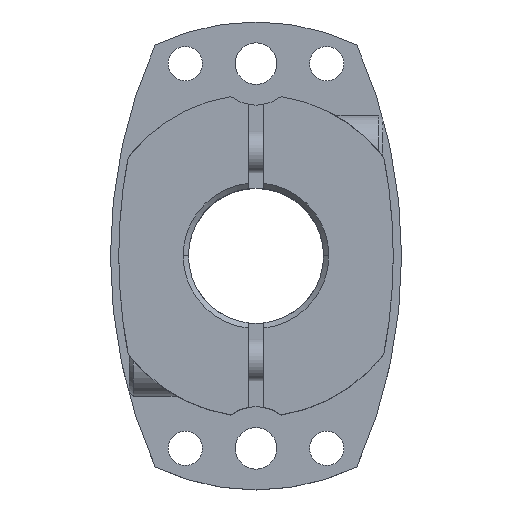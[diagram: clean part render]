
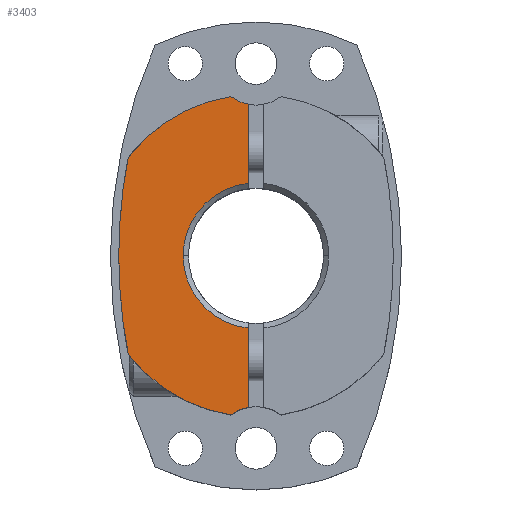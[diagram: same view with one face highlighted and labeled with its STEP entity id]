
A CAD part, top view. The second image highlights one B-rep face of the part: STEP entity #3403.
In plain terms, the highlighted planar face has unit normal (0, 0, 1).
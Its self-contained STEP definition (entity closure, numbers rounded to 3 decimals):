
#412=CARTESIAN_POINT('',(-7.,0.,14.5));
#413=VERTEX_POINT('',#412);
#421=CARTESIAN_POINT('',(-0.75,6.96,14.5));
#422=VERTEX_POINT('',#421);
#436=CARTESIAN_POINT('',(0.,0.0,14.5));
#437=DIRECTION('',(0.0,0.0,1.0));
#438=DIRECTION('',(-1.0,0.0,0.0));
#439=AXIS2_PLACEMENT_3D('',#436,#437,#438);
#440=CIRCLE('',#439,7.0);
#441=EDGE_CURVE('',#422,#413,#440,.T.);
#451=CARTESIAN_POINT('',(-13.2,0.,14.5));
#452=VERTEX_POINT('',#451);
#461=CARTESIAN_POINT('',(-12.283,9.454,14.5));
#462=VERTEX_POINT('',#461);
#463=CARTESIAN_POINT('',(36.,0.,14.5));
#464=DIRECTION('',(0.0,0.0,-1.0));
#465=DIRECTION('',(1.0,0.0,0.0));
#466=AXIS2_PLACEMENT_3D('',#463,#464,#465);
#467=CIRCLE('',#466,49.2);
#468=EDGE_CURVE('',#452,#462,#467,.T.);
#1918=CARTESIAN_POINT('',(-2.414,-15.311,14.5));
#1919=VERTEX_POINT('',#1918);
#1926=CARTESIAN_POINT('',(-12.283,-9.454,14.5));
#1927=VERTEX_POINT('',#1926);
#1928=CARTESIAN_POINT('',(0.,0.,14.5));
#1929=DIRECTION('',(0.0,0.0,-1.0));
#1930=DIRECTION('',(1.0,0.0,0.0));
#1931=AXIS2_PLACEMENT_3D('',#1928,#1929,#1930);
#1932=CIRCLE('',#1931,15.5);
#1933=EDGE_CURVE('',#1919,#1927,#1932,.T.);
#2614=CARTESIAN_POINT('',(36.,0.,14.5));
#2615=DIRECTION('',(0.0,0.0,-1.0));
#2616=DIRECTION('',(1.0,0.0,0.0));
#2617=AXIS2_PLACEMENT_3D('',#2614,#2615,#2616);
#2618=CIRCLE('',#2617,49.2);
#2619=EDGE_CURVE('',#1927,#452,#2618,.T.);
#2629=CARTESIAN_POINT('',(-0.75,-14.571,14.5));
#2630=VERTEX_POINT('',#2629);
#2639=CARTESIAN_POINT('',(0.,-18.5,14.5));
#2640=DIRECTION('',(0.0,0.0,-1.0));
#2641=DIRECTION('',(1.0,0.0,0.0));
#2642=AXIS2_PLACEMENT_3D('',#2639,#2640,#2641);
#2643=CIRCLE('',#2642,4.0);
#2644=EDGE_CURVE('',#1919,#2630,#2643,.T.);
#2823=CARTESIAN_POINT('',(-0.75,14.571,14.5));
#2824=VERTEX_POINT('',#2823);
#2840=CARTESIAN_POINT('',(-2.414,15.311,14.5));
#2841=VERTEX_POINT('',#2840);
#2848=CARTESIAN_POINT('',(0.,18.5,14.5));
#2849=DIRECTION('',(0.0,0.0,-1.0));
#2850=DIRECTION('',(1.0,0.0,0.0));
#2851=AXIS2_PLACEMENT_3D('',#2848,#2849,#2850);
#2852=CIRCLE('',#2851,4.0);
#2853=EDGE_CURVE('',#2824,#2841,#2852,.T.);
#2967=CARTESIAN_POINT('',(-0.75,-6.96,14.5));
#2968=VERTEX_POINT('',#2967);
#2982=CARTESIAN_POINT('',(-0.75,-14.571,14.5));
#2983=DIRECTION('',(0.0,1.0,0.0));
#2984=VECTOR('',#2983,7.611);
#2985=LINE('',#2982,#2984);
#2986=EDGE_CURVE('',#2630,#2968,#2985,.T.);
#3029=CARTESIAN_POINT('',(-0.75,6.96,14.5));
#3030=DIRECTION('',(0.0,1.0,0.0));
#3031=VECTOR('',#3030,7.611);
#3032=LINE('',#3029,#3031);
#3033=EDGE_CURVE('',#422,#2824,#3032,.T.);
#3341=CARTESIAN_POINT('',(0.,0.,14.5));
#3342=DIRECTION('',(0.0,0.0,-1.0));
#3343=DIRECTION('',(1.0,0.0,0.0));
#3344=AXIS2_PLACEMENT_3D('',#3341,#3342,#3343);
#3345=CIRCLE('',#3344,15.5);
#3346=EDGE_CURVE('',#462,#2841,#3345,.T.);
#3380=CARTESIAN_POINT('',(0.,0.,14.5));
#3381=DIRECTION('',(0.0,0.0,1.0));
#3382=DIRECTION('',(1.0,0.0,0.0));
#3383=AXIS2_PLACEMENT_3D('',#3380,#3381,#3382);
#3384=PLANE('',#3383);
#3385=ORIENTED_EDGE('',*,*,#2644,.T.);
#3386=ORIENTED_EDGE('',*,*,#2986,.T.);
#3387=CARTESIAN_POINT('',(0.,0.0,14.5));
#3388=DIRECTION('',(0.0,0.0,1.0));
#3389=DIRECTION('',(-1.0,0.0,0.0));
#3390=AXIS2_PLACEMENT_3D('',#3387,#3388,#3389);
#3391=CIRCLE('',#3390,7.0);
#3392=EDGE_CURVE('',#413,#2968,#3391,.T.);
#3393=ORIENTED_EDGE('',*,*,#3392,.F.);
#3394=ORIENTED_EDGE('',*,*,#441,.F.);
#3395=ORIENTED_EDGE('',*,*,#3033,.T.);
#3396=ORIENTED_EDGE('',*,*,#2853,.T.);
#3397=ORIENTED_EDGE('',*,*,#3346,.F.);
#3398=ORIENTED_EDGE('',*,*,#468,.F.);
#3399=ORIENTED_EDGE('',*,*,#2619,.F.);
#3400=ORIENTED_EDGE('',*,*,#1933,.F.);
#3401=EDGE_LOOP('',(#3385,#3386,#3393,#3394,#3395,#3396,#3397,#3398,#3399,#3400));
#3402=FACE_OUTER_BOUND('',#3401,.T.);
#3403=ADVANCED_FACE('',(#3402),#3384,.T.);
